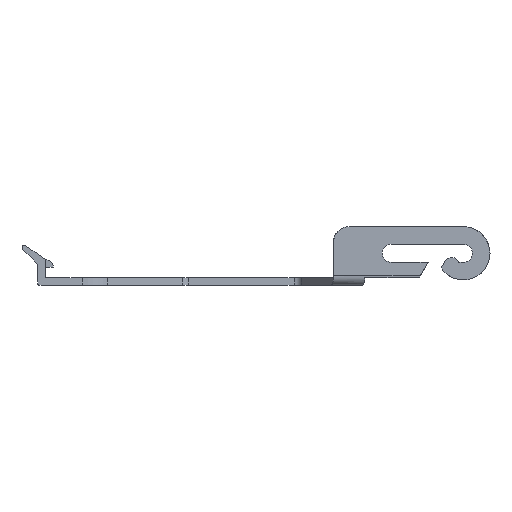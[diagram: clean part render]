
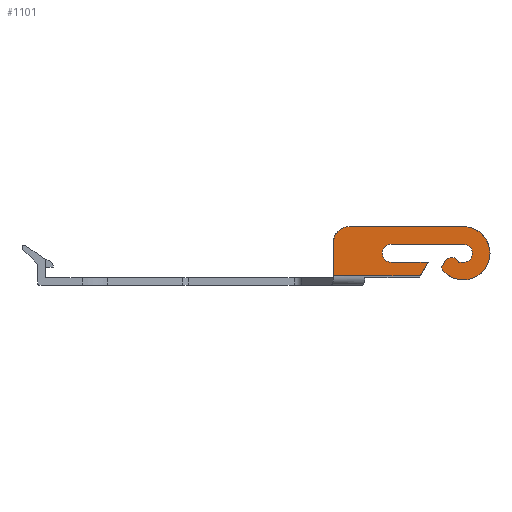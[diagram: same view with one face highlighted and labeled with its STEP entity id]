
A CAD part, left-side view. The second image highlights one B-rep face of the part: STEP entity #1101.
In plain terms, the highlighted planar face has unit normal (-1, 0, 0).
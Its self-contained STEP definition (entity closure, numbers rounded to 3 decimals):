
#4 = DIRECTION ( 'NONE',  ( 0., 0., 1. ) ) ;
#18 = ORIENTED_EDGE ( 'NONE', *, *, #2355, .F. ) ;
#34 = VERTEX_POINT ( 'NONE', #3072 ) ;
#71 = CARTESIAN_POINT ( 'NONE',  ( -18.45, -18.798, 2.45 ) ) ;
#120 = EDGE_CURVE ( 'NONE', #668, #227, #551, .T. ) ;
#131 = ORIENTED_EDGE ( 'NONE', *, *, #1778, .F. ) ;
#145 = DIRECTION ( 'NONE',  ( 1., 0., 0. ) ) ;
#175 = CIRCLE ( 'NONE', #1501, 1.15 ) ;
#203 = EDGE_CURVE ( 'NONE', #2716, #1096, #2922, .T. ) ;
#205 = VECTOR ( 'NONE', #2623, 1000. ) ;
#224 = ORIENTED_EDGE ( 'NONE', *, *, #203, .F. ) ;
#227 = VERTEX_POINT ( 'NONE', #1668 ) ;
#285 = DIRECTION ( 'NONE',  ( -1., 0., 0. ) ) ;
#295 = DIRECTION ( 'NONE',  ( 0., 0., 1. ) ) ;
#302 = VERTEX_POINT ( 'NONE', #1231 ) ;
#337 = EDGE_CURVE ( 'NONE', #805, #2990, #2475, .T. ) ;
#386 = CARTESIAN_POINT ( 'NONE',  ( -18.45, -6.7, 0.5 ) ) ;
#493 = CARTESIAN_POINT ( 'NONE',  ( -18.45, -22.717, 2.45 ) ) ;
#522 = AXIS2_PLACEMENT_3D ( 'NONE', #1483, #1760, #2018 ) ;
#551 = LINE ( 'NONE', #1610, #3068 ) ;
#597 = CARTESIAN_POINT ( 'NONE',  ( -18.45, -6.7, 5. ) ) ;
#613 = VECTOR ( 'NONE', #1870, 1000. ) ;
#634 = CARTESIAN_POINT ( 'NONE',  ( -18.45, -6.7, 0.7 ) ) ;
#658 = CIRCLE ( 'NONE', #2388, 1.15 ) ;
#668 = VERTEX_POINT ( 'NONE', #1632 ) ;
#692 = CARTESIAN_POINT ( 'NONE',  ( -18.45, -23.3, 2.45 ) ) ;
#744 = ORIENTED_EDGE ( 'NONE', *, *, #1473, .F. ) ;
#787 = CIRCLE ( 'NONE', #522, 2. ) ;
#805 = VERTEX_POINT ( 'NONE', #987 ) ;
#812 = LINE ( 'NONE', #2430, #1613 ) ;
#821 = ORIENTED_EDGE ( 'NONE', *, *, #2155, .F. ) ;
#959 = DIRECTION ( 'NONE',  ( 0., -1., 0. ) ) ;
#977 = LINE ( 'NONE', #1332, #2702 ) ;
#987 = CARTESIAN_POINT ( 'NONE',  ( -18.45, -20.934, 2.55 ) ) ;
#1059 = DIRECTION ( 'NONE',  ( 1., 0., 0. ) ) ;
#1060 = ORIENTED_EDGE ( 'NONE', *, *, #1566, .F. ) ;
#1096 = VERTEX_POINT ( 'NONE', #2896 ) ;
#1101 = ADVANCED_FACE ( 'NONE', ( #3058 ), #2389, .F. ) ;
#1102 = VERTEX_POINT ( 'NONE', #692 ) ;
#1145 = CARTESIAN_POINT ( 'NONE',  ( -18.45, -10.7, 0.5 ) ) ;
#1210 = DIRECTION ( 'NONE',  ( 0., -1., 0. ) ) ;
#1231 = CARTESIAN_POINT ( 'NONE',  ( -18.45, -23.3, 7. ) ) ;
#1268 = ORIENTED_EDGE ( 'NONE', *, *, #1274, .F. ) ;
#1274 = EDGE_CURVE ( 'NONE', #34, #3037, #2340, .T. ) ;
#1278 = LINE ( 'NONE', #386, #613 ) ;
#1319 = EDGE_LOOP ( 'NONE', ( #744, #2106, #18, #224, #1520, #1759, #1576, #2810, #2099, #2608, #1268, #1060, #821, #131 ) ) ;
#1332 = CARTESIAN_POINT ( 'NONE',  ( -18.45, -20.934, 2.55 ) ) ;
#1338 = CARTESIAN_POINT ( 'NONE',  ( -18.45, -23.3, 3.6 ) ) ;
#1420 = CARTESIAN_POINT ( 'NONE',  ( -18.45, -20.46, 1.73 ) ) ;
#1430 = CARTESIAN_POINT ( 'NONE',  ( -18.45, -14.1, 2.45 ) ) ;
#1440 = DIRECTION ( 'NONE',  ( 0., 1., 0. ) ) ;
#1465 = LINE ( 'NONE', #2636, #205 ) ;
#1473 = EDGE_CURVE ( 'NONE', #2483, #2477, #1278, .T. ) ;
#1480 = LINE ( 'NONE', #2180, #3112 ) ;
#1483 = CARTESIAN_POINT ( 'NONE',  ( -18.45, -8.7, 5. ) ) ;
#1501 = AXIS2_PLACEMENT_3D ( 'NONE', #2575, #1578, #2564 ) ;
#1511 = EDGE_CURVE ( 'NONE', #2990, #1102, #1465, .T. ) ;
#1520 = ORIENTED_EDGE ( 'NONE', *, *, #2881, .F. ) ;
#1545 = CARTESIAN_POINT ( 'NONE',  ( -18.45, -8.7, 7. ) ) ;
#1566 = EDGE_CURVE ( 'NONE', #302, #34, #2893, .T. ) ;
#1576 = ORIENTED_EDGE ( 'NONE', *, *, #2487, .F. ) ;
#1578 = DIRECTION ( 'NONE',  ( -1., 0., 0. ) ) ;
#1610 = CARTESIAN_POINT ( 'NONE',  ( -18.45, -14.1, 4.75 ) ) ;
#1613 = VECTOR ( 'NONE', #1210, 1000. ) ;
#1632 = CARTESIAN_POINT ( 'NONE',  ( -18.45, -23.3, 4.75 ) ) ;
#1668 = CARTESIAN_POINT ( 'NONE',  ( -18.45, -14.1, 4.75 ) ) ;
#1702 = DIRECTION ( 'NONE',  ( 1., 0., 0. ) ) ;
#1737 = VERTEX_POINT ( 'NONE', #2490 ) ;
#1759 = ORIENTED_EDGE ( 'NONE', *, *, #120, .F. ) ;
#1760 = DIRECTION ( 'NONE',  ( 1., 0., 0. ) ) ;
#1778 = EDGE_CURVE ( 'NONE', #2477, #1833, #787, .T. ) ;
#1782 = DIRECTION ( 'NONE',  ( 0., 0.5, -0.866 ) ) ;
#1813 = CARTESIAN_POINT ( 'NONE',  ( -18.45, -23.3, 3.6 ) ) ;
#1821 = DIRECTION ( 'NONE',  ( 0., -0.5, 0.866 ) ) ;
#1832 = AXIS2_PLACEMENT_3D ( 'NONE', #1813, #1059, #2556 ) ;
#1833 = VERTEX_POINT ( 'NONE', #1545 ) ;
#1870 = DIRECTION ( 'NONE',  ( 0., 0., 1. ) ) ;
#1888 = LINE ( 'NONE', #71, #3026 ) ;
#2018 = DIRECTION ( 'NONE',  ( 0., 0., -1. ) ) ;
#2025 = AXIS2_PLACEMENT_3D ( 'NONE', #2717, #1702, #4 ) ;
#2099 = ORIENTED_EDGE ( 'NONE', *, *, #337, .F. ) ;
#2106 = ORIENTED_EDGE ( 'NONE', *, *, #2746, .T. ) ;
#2155 = EDGE_CURVE ( 'NONE', #1833, #302, #1480, .T. ) ;
#2180 = CARTESIAN_POINT ( 'NONE',  ( -18.45, -8.7, 7. ) ) ;
#2323 = DIRECTION ( 'NONE',  ( 0., 0., -1. ) ) ;
#2340 = CIRCLE ( 'NONE', #1832, 3.4 ) ;
#2355 = EDGE_CURVE ( 'NONE', #1096, #1737, #1888, .T. ) ;
#2388 = AXIS2_PLACEMENT_3D ( 'NONE', #2950, #285, #295 ) ;
#2389 = PLANE ( 'NONE',  #2566 ) ;
#2430 = CARTESIAN_POINT ( 'NONE',  ( -18.45, -10.7, 0.7 ) ) ;
#2441 = CARTESIAN_POINT ( 'NONE',  ( -18.45, -14.1, 2.45 ) ) ;
#2475 = CIRCLE ( 'NONE', #2025, 1. ) ;
#2477 = VERTEX_POINT ( 'NONE', #597 ) ;
#2483 = VERTEX_POINT ( 'NONE', #634 ) ;
#2486 = AXIS2_PLACEMENT_3D ( 'NONE', #1338, #145, #2323 ) ;
#2487 = EDGE_CURVE ( 'NONE', #1102, #668, #175, .T. ) ;
#2490 = CARTESIAN_POINT ( 'NONE',  ( -18.45, -17.787, 0.7 ) ) ;
#2535 = EDGE_CURVE ( 'NONE', #3037, #805, #977, .T. ) ;
#2556 = DIRECTION ( 'NONE',  ( 0., 0., -1. ) ) ;
#2564 = DIRECTION ( 'NONE',  ( 0., 0., -1. ) ) ;
#2566 = AXIS2_PLACEMENT_3D ( 'NONE', #1145, #2639, #1440 ) ;
#2575 = CARTESIAN_POINT ( 'NONE',  ( -18.45, -23.3, 3.6 ) ) ;
#2608 = ORIENTED_EDGE ( 'NONE', *, *, #2535, .F. ) ;
#2623 = DIRECTION ( 'NONE',  ( 0., -1., 0. ) ) ;
#2636 = CARTESIAN_POINT ( 'NONE',  ( -18.45, -23.3, 2.45 ) ) ;
#2639 = DIRECTION ( 'NONE',  ( 1., 0., 0. ) ) ;
#2702 = VECTOR ( 'NONE', #1821, 1000. ) ;
#2716 = VERTEX_POINT ( 'NONE', #2441 ) ;
#2717 = CARTESIAN_POINT ( 'NONE',  ( -18.45, -21.8, 2.05 ) ) ;
#2746 = EDGE_CURVE ( 'NONE', #2483, #1737, #812, .T. ) ;
#2810 = ORIENTED_EDGE ( 'NONE', *, *, #1511, .F. ) ;
#2813 = DIRECTION ( 'NONE',  ( 0., 1., 0. ) ) ;
#2881 = EDGE_CURVE ( 'NONE', #227, #2716, #658, .T. ) ;
#2893 = CIRCLE ( 'NONE', #2486, 3.4 ) ;
#2896 = CARTESIAN_POINT ( 'NONE',  ( -18.45, -18.798, 2.45 ) ) ;
#2900 = DIRECTION ( 'NONE',  ( 0., -1., 0. ) ) ;
#2922 = LINE ( 'NONE', #1430, #3110 ) ;
#2950 = CARTESIAN_POINT ( 'NONE',  ( -18.45, -14.1, 3.6 ) ) ;
#2990 = VERTEX_POINT ( 'NONE', #493 ) ;
#3026 = VECTOR ( 'NONE', #1782, 1000. ) ;
#3037 = VERTEX_POINT ( 'NONE', #1420 ) ;
#3058 = FACE_OUTER_BOUND ( 'NONE', #1319, .T. ) ;
#3068 = VECTOR ( 'NONE', #2813, 1000. ) ;
#3072 = CARTESIAN_POINT ( 'NONE',  ( -18.45, -23.3, 0.2 ) ) ;
#3110 = VECTOR ( 'NONE', #2900, 1000. ) ;
#3112 = VECTOR ( 'NONE', #959, 1000. ) ;
